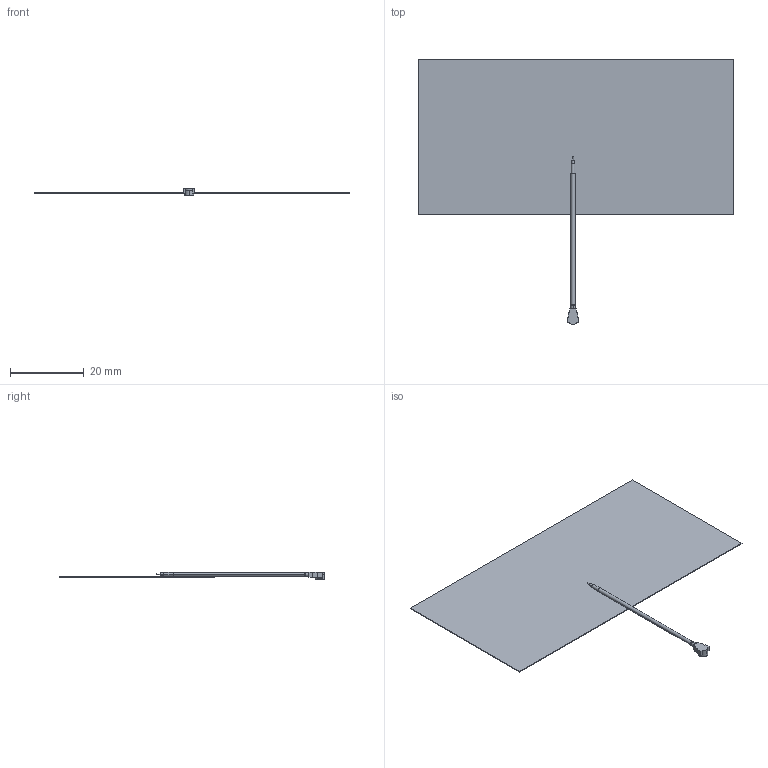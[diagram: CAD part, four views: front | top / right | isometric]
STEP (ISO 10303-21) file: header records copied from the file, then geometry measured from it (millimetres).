
FILE_DESCRIPTION((''),'2;1');
FILE_NAME('1002292_ASM_ASM','2018-01-19T',('mrodriguez'),(''),'CREO PARAMETRIC BY PTC INC, 2016130','CREO PARAMETRIC BY PTC INC, 2016130','');
FILE_SCHEMA(('AUTOMOTIVE_DESIGN { 1 0 10303 214 1 1 1 1 }'));
Length unit declared in the file: millimetre
Products named in the file (6): 1002293_1; 1002294_1; HIROSE_COAXIAL_1; 1002294_ASM_1_ASM; 1002292_ASM_1_ASM; 1002292_ASM_ASM
Assembly tree (5 placements, depth 4):
  1002292_ASM_ASM
    1002292_ASM_1_ASM
      1002293_1
      1002294_ASM_1_ASM
        1002294_1
        HIROSE_COAXIAL_1
Bounding box: 85.2 x 71.85 x 2.1 mm (x, y, z)
Volume: 770.7 mm3; surface area: 7427.2 mm2
Topology: 3 solids, 3 shells, 49 faces, 115 edges, 78 vertices
Faces by surface type: plane 31, cylinder 18
Entity records: 2088 total; most frequent: DIRECTION 284, CARTESIAN_POINT 271, ORIENTED_EDGE 230, EDGE_CURVE 115, AXIS2_PLACEMENT_3D 105, PRESENTATION_STYLE_ASSIGNMENT 101, STYLED_ITEM 101, CURVE_STYLE 91
